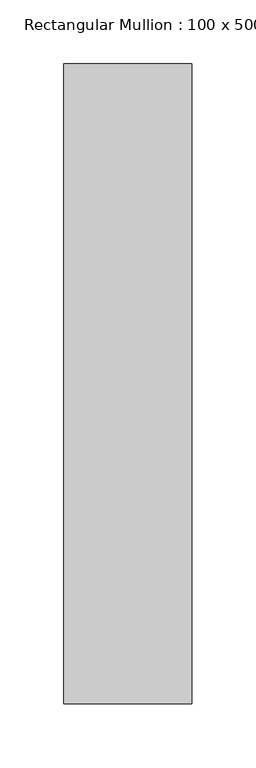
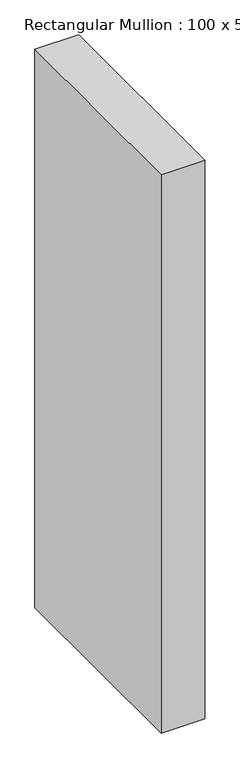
"""IFC4 building model written with IfcOpenShell, lengths in millimetres: member geometry, Rectangular Mullion : 100 x 500mm."""

from ifc_helpers import new_model, si_unit, frame, origin, place, context, project, spatial, polyline, outline, extrude, source, transform, mapped, element, save


def rectangular_mullion_100_x_500mm_b3343f74(model_context):
    return source(origin(), model_context, "Body", "SweptSolid", [
        extrude(outline(polyline([(0.0, 125.0), (0.0, -375.0), (-100.0, -375.0), (-100.0, 125.0), (0.0, 125.0)])), frame((0.0, 0.0, -1350.0), z_axis=(0.0, 0.0, 1.0), x_axis=(1.0, 0.0, 0.0)), (0.0, 0.0, 1.0), 1350.0),
    ])


if __name__ == "__main__":
    model = new_model("IFC4")
    model_context = context("Model", 3, world=origin())
    ifc_project = project(units=[si_unit("LENGTHUNIT", "METRE", prefix="MILLI")], contexts=[model_context])
    site = spatial("IfcSite", under=ifc_project)
    building = spatial("IfcBuilding", under=site)
    placement = place(None, origin())
    rectangular_mullion_100_x_500mm_shape = rectangular_mullion_100_x_500mm_b3343f74(model_context)
    element("IfcMember", 1, ObjectType="Rectangular Mullion : 100 x 500mm", at=placement, inside=building, context=model_context, shape_type="MappedRepresentation", body=[
        mapped(rectangular_mullion_100_x_500mm_shape, transform((0.0, 0.0, 0.0), x_axis=(1.0, 0.0, 0.0), y_axis=(0.0, 1.0, 0.0), z_axis=(0.0, 0.0, 1.0))),
    ])
    save(model, "model.ifc")
